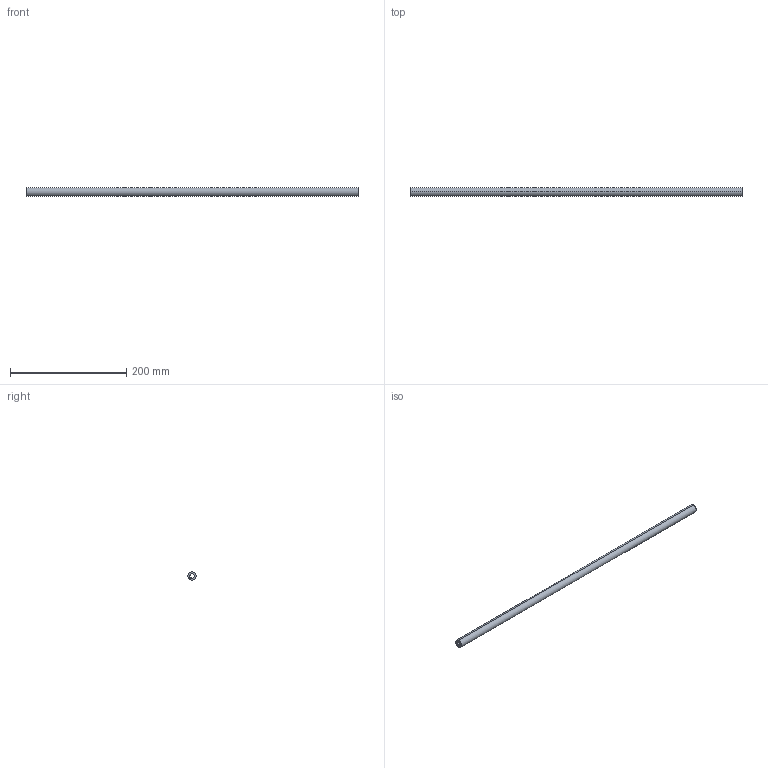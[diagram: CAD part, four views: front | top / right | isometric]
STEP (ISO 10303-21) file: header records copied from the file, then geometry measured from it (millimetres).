
FILE_DESCRIPTION (( 'STEP AP214' ), '1' );
FILE_NAME ('SyncronisationsstangeXP_KAB_700_16.step', '2009-11-24T08:53:24', ( 'Grass' ), ( 'Grass GmbH' ), 'SwSTEP 2.0', 'SolidWorks 2009', '' );
FILE_SCHEMA (( 'AUTOMOTIVE_DESIGN' ));
Length unit declared in the file: millimetre
Products named in the file (1): SyncronisationsstangeXP_KAB_700_16
Bounding box: 571 x 14 x 14 mm (x, y, z)
Volume: 61742.1 mm3; surface area: 39879.7 mm2
Topology: 1 solids, 1 shells, 15 faces, 39 edges, 26 vertices
Faces by surface type: cylinder 11, plane 4
Entity records: 513 total; most frequent: DIRECTION 93, CARTESIAN_POINT 81, ORIENTED_EDGE 78, EDGE_CURVE 39, AXIS2_PLACEMENT_3D 38, VERTEX_POINT 26, CIRCLE 22, VECTOR 17
